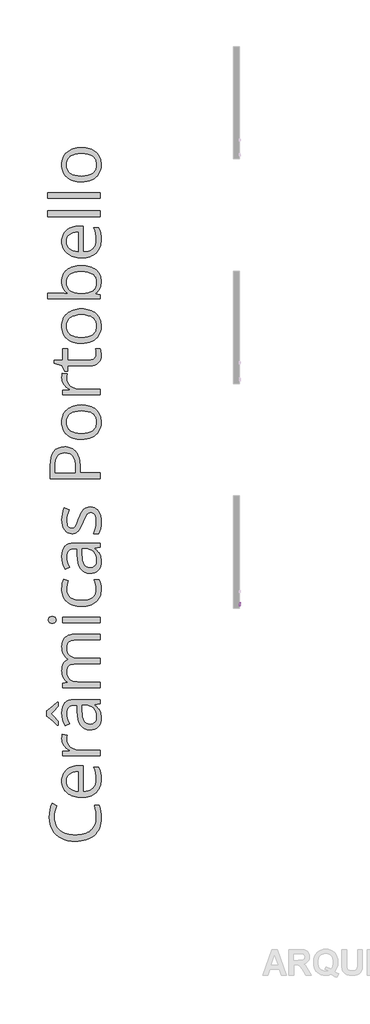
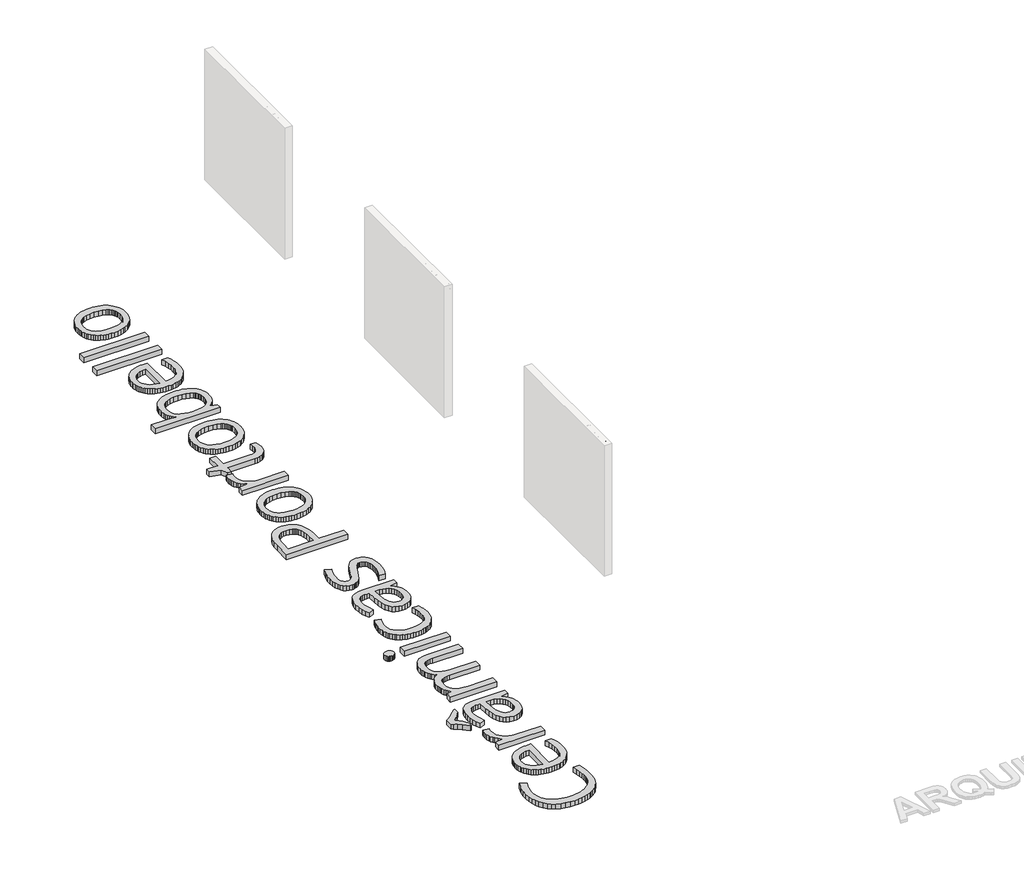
# One storey, part 2 of 8: 2 proxies.
"""IFC4 building model written with IfcOpenShell, lengths in millimetres."""

from ifc_helpers import new_model, si_unit, frame, origin, origin_with_axes, place, context, project, spatial, polyline, outline, extrude, element, save

model = new_model("IFC4")

# Units and contexts
model_context = context("Model", 3, world=origin())
ifc_project = project(units=[si_unit("LENGTHUNIT", "METRE", prefix="MILLI")], contexts=[model_context])

# Site, building, storey
site = spatial("IfcSite", under=ifc_project)
building = spatial("IfcBuilding", under=site)
storey = spatial("IfcBuildingStorey", under=building, Name="PORTOBELLO - SHOWROOM", Elevation=0.0)

# Proxies
placement = place(None, origin())
element("IfcBuildingElementProxy", 1, Name="10mm Arial", ObjectType="10mm Arial", at=placement, inside=storey, context=model_context, shape_type="SweptSolid", body=[
    extrude(outline(polyline([(-3776.6101833, 2548.8308244), (-3736.5110458, 2649.2871345), (-3725.8179425, 2649.2871345), (-3685.718805, 2548.8308244), (-3698.9870823, 2548.8308244), (-3710.489526, 2580.2234213), (-3751.8639877, 2580.2234213), (-3763.341906, 2548.8308244), (-3776.6101833, 2548.8308244)]), holes=[polyline([(-3747.2532, 2592.7804601), (-3715.0757882, 2592.7804601), (-3724.1256853, 2617.4776047), (-3731.1644941, 2636.7300958), (-3737.418488, 2619.6358457), (-3747.2532, 2592.7804601)])]), frame((-19232.9960483, 0.0, 0.0), z_axis=(1.0, 0.0, 0.0), x_axis=(0.0, 1.0, 0.0)), (0.0, 0.0, 1.0), 20.0),
    extrude(outline(polyline([(-3673.8730047, 2548.8308244), (-3673.8730047, 2622.6034272), (-3661.315966, 2622.6034272), (-3661.315966, 2612.3027313), (-3651.7142459, 2621.2054756), (-3638.6053841, 2624.173057), (-3626.7473212, 2621.781824), (-3618.6539173, 2615.5033046), (-3614.8892582, 2606.2694666), (-3614.2270706, 2594.1293607), (-3614.2270706, 2548.8308244), (-3626.7841094, 2548.8308244), (-3626.7841094, 2592.4371035), (-3628.2311119, 2603.5471398), (-3633.3446716, 2609.420989), (-3641.965373, 2611.6160182), (-3655.5892696, 2606.6863995), (-3659.8842919, 2599.5433574), (-3661.315966, 2587.9734687), (-3661.315966, 2548.8308244), (-3673.8730047, 2548.8308244)])), frame((-19232.9960483, 0.0, 0.0), z_axis=(1.0, 0.0, 0.0), x_axis=(0.0, 1.0, 0.0)), (0.0, 0.0, 1.0), 20.0),
    extrude(outline(polyline([(-19212.9960483, -3584.4041035), (-19212.9960483, -3596.9611423), (-19232.9960483, -3596.9611423), (-19232.9960483, -3584.4041035), (-19212.9960483, -3584.4041035)])), frame((0.0, 0.0, 2548.8308244), z_axis=(0.0, 0.0, 1.0), x_axis=(1.0, 0.0, 0.0)), (0.0, 0.0, 1.0), 73.7726028),
    extrude(outline(polyline([(-19212.9960483, -3584.4041035), (-19212.9960483, -3596.9611423), (-19232.9960483, -3596.9611423), (-19232.9960483, -3584.4041035), (-19212.9960483, -3584.4041035)])), frame((0.0, 0.0, 2636.7300958), z_axis=(0.0, 0.0, 1.0), x_axis=(1.0, 0.0, 0.0)), (0.0, 0.0, 1.0), 12.5570388),
    extrude(outline(polyline([(-3570.2774349, 2570.8056422), (-3557.7203961, 2572.3752721), (-3551.9078606, 2563.0555949), (-3538.5905324, 2559.8182333), (-3525.7882389, 2562.7858147), (-3521.6189097, 2569.7510472), (-3525.8127644, 2575.3919044), (-3538.7376852, 2578.9726225), (-3557.6468197, 2585.1162518), (-3565.8996392, 2592.2899507), (-3568.707805, 2602.4189683), (-3566.4514621, 2611.7754338), (-3560.2955701, 2618.9246072), (-3552.3125308, 2622.6402154), (-3541.5090629, 2624.173057), (-3526.2296973, 2621.7082476), (-3516.5176127, 2615.0373208), (-3512.2011306, 2603.767869), (-3524.7581694, 2602.1982392), (-3529.4793216, 2609.1266834), (-3540.5280442, 2611.6160182), (-3552.5455227, 2609.237048), (-3556.1507663, 2603.6942926), (-3554.6547128, 2600.0399981), (-3549.9703488, 2597.2686204), (-3539.1546181, 2594.5953446), (-3520.7237301, 2588.6847072), (-3512.1643424, 2581.9892549), (-3509.0618709, 2571.0754224), (-3512.7039026, 2559.0579439), (-3523.213065, 2550.3391406), (-3538.7622106, 2547.2611945), (-3551.4234826, 2548.7449853), (-3560.6634521, 2553.1963574), (-3566.8316069, 2560.56626), (-3570.2774349, 2570.8056422)])), frame((-19232.9960483, 0.0, 0.0), z_axis=(1.0, 0.0, 0.0), x_axis=(0.0, 1.0, 0.0)), (0.0, 0.0, 1.0), 20.0),
])
element("IfcBuildingElementProxy", 2, Name="1200mm OpenSans", ObjectType="1200mm OpenSans", at=placement, inside=storey, context=model_context, shape_type="SweptSolid", body=[
    extrude(outline(polyline([(-23693.0120299, -8848.8199768), (-23690.8909826, -8897.0040871), (-23684.5278407, -8942.5854781), (-23673.9226042, -8985.5641496), (-23659.0752731, -9025.9401018), (-23639.9858474, -9063.7133345), (-23616.6543272, -9098.8838479), (-23589.0807123, -9131.4516419), (-23557.2650028, -9161.4167165), (-23521.7592907, -9188.2889492), (-23483.115668, -9211.5782175), (-23441.3341347, -9231.2845215), (-23396.4146908, -9247.4078611), (-23348.3573363, -9259.9482364), (-23297.1620712, -9268.9056473), (-23242.8288954, -9274.2800938), (-23185.3578091, -9276.071576), (-23126.4163553, -9274.3448801), (-23070.917026, -9269.1647925), (-23018.8598214, -9260.5313131), (-22970.2447412, -9248.444442), (-22925.0717857, -9232.9041791), (-22883.3409547, -9213.9105245), (-22845.0522483, -9191.4634781), (-22810.2056665, -9165.56304), (-22779.1504919, -9136.4683553), (-22752.2360073, -9104.4385694), (-22729.4622126, -9069.4736821), (-22710.8291078, -9031.5736935), (-22696.336693, -8990.7386036), (-22685.9849681, -8946.9684125), (-22679.7739332, -8900.26312), (-22677.7035882, -8850.6227262), (-22680.5203841, -8785.5209398), (-22688.9707718, -8716.0474861), (-22703.0547512, -8642.2023653), (-22722.7723223, -8563.9855773), (-22605.9541636, -8563.9855773), (-22586.8675547, -8630.0112728), (-22573.2342626, -8703.3381031), (-22565.0542874, -8783.9660684), (-22562.327629, -8871.8951686), (-22564.8655621, -8936.3434584), (-22572.4793613, -8997.0059745), (-22585.1690268, -9053.8827169), (-22602.9345584, -9106.9736857), (-22625.7759562, -9156.2788808), (-22653.6932202, -9201.7983022), (-22686.6863503, -9243.53195), (-22724.7553466, -9281.4798241), (-22767.5002241, -9315.2813747), (-22814.5209978, -9344.5760518), (-22865.8176676, -9369.3638556), (-22921.3902335, -9389.6447859), (-22981.2386956, -9405.4188428), (-23045.3630538, -9416.6860264), (-23113.7633082, -9423.4463365), (-23186.4394587, -9425.6997732), (-23277.2754923, -9421.3619075), (-23362.2976591, -9408.3483106), (-23441.5059593, -9386.6589823), (-23514.9003928, -9356.2939227), (-23581.342974, -9317.7376207), (-23639.6957175, -9271.4745651), (-23689.9586232, -9217.504756), (-23732.1316911, -9155.8281934), (-23765.4938215, -9087.4025879), (-23789.3239147, -9013.18565), (-23803.6219705, -8933.1773798), (-23808.3879892, -8847.3777773), (-23804.3994062, -8755.8882471), (-23792.4336573, -8670.3477898), (-23772.4907425, -8590.7564054), (-23744.5706617, -8517.1140939), (-23628.8341525, -8576.244273), (-23656.9119739, -8644.3881989), (-23676.9675606, -8712.5321249), (-23689.0009126, -8780.6760508), (-23693.0120299, -8848.8199768)])), origin_with_axes(), (0.0, 0.0, 1.0), 100.0),
    extrude(outline(polyline([(-22562.327629, -7940.9553972), (-22564.2543173, -7989.5789277), (-22570.0343825, -8035.5772044), (-22579.6678244, -8078.9502274), (-22593.1546431, -8119.6979966), (-22610.4948385, -8157.8205121), (-22631.6884107, -8193.3177738), (-22656.7353597, -8226.1897817), (-22685.6356854, -8256.4365359), (-22717.9556014, -8283.5622802), (-22753.261321, -8307.0712586), (-22791.5528442, -8326.9634711), (-22832.830171, -8343.2389177), (-22877.0933015, -8355.8975984), (-22924.3422356, -8364.9395132), (-22974.5769733, -8370.3646621), (-23027.7975147, -8372.173045), (-23081.5447969, -8370.4942347), (-23132.4583824, -8365.4578036), (-23180.5382713, -8357.0637519), (-23225.7844636, -8345.3120795), (-23268.1969591, -8330.2027864), (-23307.7757581, -8311.7358726), (-23344.5208603, -8289.9113381), (-23378.4322659, -8264.7291829), (-23408.8959134, -8236.7189647), (-23435.2977412, -8206.410241), (-23457.6377493, -8173.8030119), (-23475.9159378, -8138.8972774), (-23490.1323066, -8101.6930374), (-23500.2868557, -8062.1902919), (-23506.3795852, -8020.3890411), (-23508.4104951, -7976.2892847), (-23506.6133793, -7934.9443548), (-23501.222032, -7895.81906), (-23492.2364531, -7858.9134004), (-23479.6566427, -7824.2273759), (-23463.4826008, -7791.7609866), (-23443.7143273, -7761.5142324), (-23420.3518222, -7733.4871134), (-23393.3950856, -7707.6796295), (-23363.4919806, -7684.5255674), (-23331.2903701, -7664.4587136), (-23296.7902541, -7647.479068), (-23259.9916327, -7633.5866307), (-23220.8945059, -7622.7814017), (-23179.4988736, -7615.063381), (-23135.8047359, -7610.4325686), (-23089.8120928, -7608.8889644), (-23000.7562742, -7608.8889644), (-23000.7562742, -8230.476945), (-22926.212588, -8223.9757801), (-22861.2234735, -8208.4383341), (-22805.7889305, -8183.8646068), (-22781.6546234, -8168.1891377), (-22759.9089592, -8150.2545983), (-22740.6420754, -8130.2243628), (-22723.9441094, -8108.2618054), (-22698.254931, -8058.5397245), (-22682.8414239, -8001.0883557), (-22677.7035882, -7935.907699), (-22681.5118963, -7863.279434), (-22692.9368204, -7791.0567876), (-22711.9783605, -7719.2397598), (-22738.6365167, -7647.8283507), (-22618.933959, -7647.8283507), (-22592.9292994, -7718.3158508), (-22575.4876993, -7784.8373023), (-22565.6176466, -7856.1360396), (-22562.327629, -7940.9553972)]), holes=[polyline([(-23393.0345358, -7977.7314842), (-23388.4375249, -8029.2563145), (-23374.6464923, -8075.3052935), (-23351.6614379, -8115.8784214), (-23319.4823617, -8150.9756981), (-23279.1909135, -8180.01123), (-23231.8687427, -8202.3991237), (-23177.5158493, -8218.1393791), (-23116.1322335, -8227.2319962), (-23116.1322335, -7755.2722127), (-23179.27353, -7758.8777115), (-23234.5728667, -7769.6942077), (-23282.0302437, -7787.7217013), (-23321.645661, -7812.9601924), (-23352.8782937, -7844.8913905), (-23375.1873171, -7882.9970052), (-23388.5727311, -7927.2770364), (-23393.0345358, -7977.7314842)])]), origin_with_axes(), (0.0, 0.0, 1.0), 100.0),
    extrude(outline(polyline([(-23508.4104951, -6961.7019428), (-23506.1570583, -6904.1942381), (-23499.3967482, -6852.8158813), (-23380.7758401, -6871.9250245), (-23389.9698619, -6925.1061308), (-23393.0345358, -6971.4367894), (-23387.3896768, -7024.764369), (-23370.4551, -7074.0582969), (-23342.2308053, -7119.3185731), (-23302.7167926, -7160.5451977), (-23254.7749268, -7194.8537715), (-23201.2670722, -7219.3598956), (-23142.193229, -7234.0635701), (-23077.5533971, -7238.964795), (-22585.4028208, -7238.964795), (-22585.4028208, -7375.2526469), (-23485.3353032, -7375.2526469), (-23485.3353032, -7262.7610866), (-23323.8089602, -7247.2574421), (-23323.8089602, -7240.7675443), (-23365.6102111, -7214.0643194), (-23402.318695, -7184.7921766), (-23433.934412, -7152.951116), (-23460.457362, -7118.5411375), (-23481.4368577, -7081.9678598), (-23496.4222118, -7043.6369014), (-23505.4134242, -7003.5482624), (-23508.4104951, -6961.7019428)])), origin_with_axes(), (0.0, 0.0, 1.0), 100.0),
    extrude(outline(polyline([(-22585.4028208, -6122.3418391), (-22717.0035244, -6149.7436294), (-22717.0035244, -6156.594077), (-22675.4050828, -6190.6322384), (-22641.1077762, -6224.6027967), (-22614.1116044, -6258.505752), (-22594.4165676, -6292.3411041), (-22580.377657, -6328.249618), (-22570.3498636, -6368.3720585), (-22564.3331876, -6412.7084257), (-22562.327629, -6461.2587195), (-22566.8007008, -6525.3689937), (-22580.2199164, -6582.1330643), (-22602.5852757, -6631.5509312), (-22633.8967787, -6673.6225945), (-22673.4558601, -6707.2213358), (-22720.5639544, -6731.2204367), (-22775.2210616, -6745.6198972), (-22837.4271819, -6750.4197174), (-22903.9768014, -6743.5129339), (-22962.1098347, -6722.7925834), (-23011.826282, -6688.2586659), (-23053.1261432, -6639.9111814), (-23086.0094184, -6577.7501299), (-23110.4761074, -6501.7755114), (-23126.5262103, -6411.9873259), (-23134.1597271, -6308.3855734), (-23139.2074254, -6153.709678), (-23193.2899063, -6153.709678), (-23240.9838941, -6156.594077), (-23282.0302437, -6165.2472739), (-23316.428955, -6179.6692689), (-23344.180028, -6199.8600617), (-23365.5538752, -6226.4055461), (-23380.8209088, -6259.8916155), (-23389.981129, -6300.31827), (-23393.0345358, -6347.6855096), (-23388.7079373, -6406.6804825), (-23375.7281419, -6469.3710916), (-23354.0951495, -6535.7573369), (-23323.8089602, -6605.8392184), (-23429.089523, -6648.3841034), (-23462.2150426, -6577.8064658), (-23487.3183275, -6500.9192055), (-23503.1374532, -6420.6968588), (-23508.4104951, -6340.1139622), (-23503.9036216, -6263.9140001), (-23490.3830014, -6198.282656), (-23467.8486344, -6143.2199302), (-23453.2012958, -6119.651799), (-23436.3005205, -6098.7258224), (-23416.9153313, -6080.3462293), (-23394.8147508, -6064.4172486), (-23369.9987791, -6050.9388803), (-23342.4674161, -6039.9111244), (-23279.2585166, -6025.2074499), (-23205.1880521, -6020.3062251), (-22585.4028208, -6020.3062251), (-22585.4028208, -6122.3418391)]), holes=[polyline([(-22677.7035882, -6434.217479), (-22682.0639883, -6372.9690694), (-22695.1451883, -6318.6612448), (-22716.9471885, -6271.2940053), (-22747.4699886, -6230.8673508), (-22785.8347485, -6198.5305341), (-22831.1626278, -6175.4328078), (-22883.4536266, -6161.5741721), (-22942.7077447, -6156.9546269), (-23023.8314661, -6156.9546269), (-23018.0626681, -6295.7663279), (-23012.7445575, -6372.5859851), (-23002.5590236, -6437.9131152), (-22987.5060664, -6491.7477181), (-22967.5856859, -6534.0897938), (-22942.1443855, -6566.1111293), (-22910.5286686, -6588.9835119), (-22872.738535, -6602.7069414), (-22828.7739849, -6607.2814179), (-22794.0259909, -6604.4308205), (-22763.6947329, -6595.8790282), (-22737.7802108, -6581.626041), (-22716.2824246, -6561.671859), (-22699.4041837, -6536.6023757), (-22687.3482973, -6507.0034846), (-22680.1147655, -6472.8751857), (-22677.7035882, -6434.217479)])]), origin_with_axes(), (0.0, 0.0, 1.0), 100.0),
    extrude(outline(polyline([(-23620.1809556, -6632.1593591), (-23719.6927205, -6543.8246403), (-23788.918296, -6486.4972106), (-23838.1333537, -6450.4422233), (-23877.6135647, -6425.9248319), (-23877.6135647, -6289.9975299), (-23837.0517041, -6265.3449324), (-23786.0338971, -6227.442127), (-23716.4477716, -6168.4471541), (-23620.1809556, -6080.5180538), (-23600.7112625, -6080.5180538), (-23600.7112625, -6177.8665195), (-23628.4285339, -6216.2200122), (-23664.348315, -6259.1705158), (-23760.795406, -6358.8625556), (-23663.0863905, -6459.3658326), (-23627.4820905, -6501.4374959), (-23600.7112625, -6538.0558424), (-23600.7112625, -6632.1593591), (-23620.1809556, -6632.1593591)])), origin_with_axes(), (0.0, 0.0, 1.0), 100.0),
    extrude(outline(polyline([(-22585.4028208, -4586.7599311), (-23175.9835124, -4586.7599311), (-23226.854846, -4589.64433), (-23270.9433351, -4598.297527), (-23308.2489798, -4612.7195219), (-23338.7717799, -4632.9103148), (-23362.5117356, -4659.1853868), (-23379.4688468, -4691.860219), (-23389.6431135, -4730.9348114), (-23393.0345358, -4776.4091641), (-23388.4262577, -4836.0576337), (-23374.6014235, -4887.3683875), (-23351.5600332, -4930.3414254), (-23319.3020868, -4964.9767476), (-23277.4670344, -4991.6349038), (-23225.6943261, -5010.6764439), (-23163.9839619, -5022.101368), (-23092.3359419, -5025.9096761), (-22585.4028208, -5025.9096761), (-22585.4028208, -5162.5580778), (-23175.9835124, -5162.5580778), (-23226.854846, -5165.4424768), (-23270.9433351, -5174.0956738), (-23308.2489798, -5188.5176687), (-23338.7717799, -5208.7084615), (-23362.5117356, -5235.0286023), (-23379.4688468, -5267.8386407), (-23389.6431135, -5307.1385768), (-23393.0345358, -5352.9284106), (-23388.1896469, -5412.9824988), (-23373.6549801, -5464.4284588), (-23349.4305355, -5507.2662905), (-23333.6846466, -5525.4571583), (-23315.5163131, -5541.4959941), (-23270.5827852, -5567.6809286), (-23213.3004242, -5586.3844532), (-23143.66923, -5597.606568), (-23061.6892027, -5601.347273), (-22585.4028208, -5601.347273), (-22585.4028208, -5737.6351249), (-23485.3353032, -5737.6351249), (-23485.3353032, -5626.5857641), (-23369.9593439, -5604.5922218), (-23369.9593439, -5598.1023241), (-23400.7976252, -5576.6608739), (-23428.0529422, -5551.2759094), (-23451.7252947, -5521.9474307), (-23471.814683, -5488.6754377), (-23487.8253508, -5452.3838396), (-23499.261542, -5413.9965453), (-23506.1232568, -5373.5135549), (-23508.4104951, -5330.9348684), (-23506.0443865, -5280.3114128), (-23498.9460609, -5234.2624338), (-23487.1155182, -5192.7879312), (-23470.5527584, -5155.8879052), (-23449.2577816, -5123.5623557), (-23423.2305876, -5095.8112826), (-23392.4711766, -5072.6346861), (-23356.9795485, -5054.0325661), (-23356.9795485, -5047.5426684), (-23390.1276024, -5025.0871717), (-23419.6250889, -4998.1022671), (-23445.4720079, -4966.5879548), (-23467.6683594, -4930.5442347), (-23485.4930438, -4890.8950159), (-23498.2249611, -4848.5642074), (-23505.8641116, -4803.5518092), (-23508.4104951, -4755.8578214), (-23503.4754687, -4684.0520608), (-23488.6703895, -4621.8684749), (-23477.5665802, -4594.3849975), (-23463.9952576, -4569.3070638), (-23447.9564219, -4546.6346737), (-23429.4500729, -4526.3678274), (-23408.2283328, -4508.4952575), (-23384.0433233, -4493.005697), (-23356.8950446, -4479.8991457), (-23326.7834967, -4469.1756038), (-23257.6705929, -4454.8775479), (-23176.7046121, -4450.1115293), (-22585.4028208, -4450.1115293), (-22585.4028208, -4586.7599311)])), origin_with_axes(), (0.0, 0.0, 1.0), 100.0),
    extrude(outline(polyline([(-22585.4028208, -4036.2002754), (-22585.4028208, -4172.4881273), (-23485.3353032, -4172.4881273), (-23485.3353032, -4036.2002754), (-22585.4028208, -4036.2002754)])), origin_with_axes(), (0.0, 0.0, 1.0), 100.0),
    extrude(outline(polyline([(-23739.5229635, -4184.0257232), (-23761.7305822, -4182.5835237), (-23780.7608552, -4178.2569252), (-23796.6137824, -4171.0459278), (-23809.2893639, -4160.9505314), (-23825.9197267, -4134.9909405), (-23831.463181, -4103.2625517), (-23825.8295893, -4072.70595), (-23808.928814, -4046.6562217), (-23796.1405607, -4036.2453441), (-23780.3101678, -4028.809003), (-23761.4376354, -4024.3471983), (-23739.5229635, -4022.8599301), (-23717.5857572, -4024.3471983), (-23698.6456217, -4028.809003), (-23682.702557, -4036.2453441), (-23669.7565631, -4046.6562217), (-23652.5853754, -4072.70595), (-23646.8616462, -4103.2625517), (-23652.5853754, -4134.9909405), (-23659.740037, -4148.6918357), (-23669.7565631, -4160.9505314), (-23682.702557, -4171.0459278), (-23698.6456217, -4178.2569252), (-23717.5857572, -4182.5835237), (-23739.5229635, -4184.0257232)])), origin_with_axes(), (0.0, 0.0, 1.0), 100.0),
    extrude(outline(polyline([(-22562.327629, -3366.2986118), (-22564.2345998, -3414.2123098), (-22569.9555122, -3459.3430134), (-22579.4903663, -3501.6907226), (-22592.8391619, -3541.2554376), (-22610.0018993, -3578.0371582), (-22630.9785782, -3612.0358845), (-22655.7691987, -3643.2516164), (-22684.3737609, -3671.684354), (-22716.4655164, -3697.035517), (-22751.7177168, -3719.0065248), (-22790.1303622, -3737.5973776), (-22831.7034526, -3752.8080754), (-22876.436988, -3764.6386181), (-22924.3309684, -3773.0890057), (-22975.3853937, -3778.1592383), (-23029.600264, -3779.8493159), (-23085.2122651, -3778.1338872), (-23137.5736837, -3772.9876011), (-23186.6845199, -3764.4104576), (-23232.5447737, -3752.4024568), (-23275.154445, -3736.9635986), (-23314.5135338, -3718.093883), (-23350.6220402, -3695.79331), (-23383.4799641, -3670.0618796), (-23412.7605573, -3641.1587371), (-23438.1370714, -3609.3430276), (-23459.6095064, -3574.6147512), (-23477.1778623, -3536.9739078), (-23490.8421391, -3496.4204975), (-23500.6023369, -3452.9545203), (-23506.4584555, -3406.5759761), (-23508.4104951, -3357.284865), (-23505.0754087, -3291.7098569), (-23495.0701498, -3226.2249863), (-23480.5580174, -3167.8609756), (-23463.7023108, -3123.6485475), (-23350.8502007, -3165.8328826), (-23367.3904261, -3213.6508094), (-23380.956115, -3265.5249224), (-23390.0149306, -3316.3173857), (-23393.0345358, -3360.8903637), (-23387.3953104, -3425.8738447), (-23370.4776344, -3482.1928615), (-23342.2815076, -3529.8474143), (-23302.8069301, -3568.8375028), (-23252.0539019, -3599.1631273), (-23190.022423, -3620.8242876), (-23116.7124935, -3633.8209838), (-23032.1241132, -3638.1532159), (-22951.4736135, -3633.928022), (-22880.7833041, -3621.2524406), (-22820.0531849, -3600.1264715), (-22769.2832559, -3570.5501147), (-22747.8192713, -3552.6324761), (-22729.2171513, -3532.6811109), (-22713.4768959, -3510.6960191), (-22700.5985052, -3486.6772006), (-22690.581979, -3460.6246555), (-22683.4273175, -3432.5383838), (-22677.7035882, -3370.2646604), (-22680.7457278, -3312.959765), (-22689.8721465, -3254.9788386), (-22705.0828442, -3196.3218812), (-22726.3778211, -3136.9888928), (-22607.7569129, -3136.9888928), (-22587.8816012, -3185.5279194), (-22573.68495, -3239.9258814), (-22565.1669592, -3300.1827789), (-22562.327629, -3366.2986118)])), origin_with_axes(), (0.0, 0.0, 1.0), 100.0),
    extrude(outline(polyline([(-22585.4028208, -2361.0855666), (-22717.0035244, -2388.4873569), (-22717.0035244, -2395.3378045), (-22675.4050828, -2429.3759659), (-22641.1077762, -2463.3465243), (-22614.1116044, -2497.2494795), (-22594.4165676, -2531.0848316), (-22580.377657, -2566.9933455), (-22570.3498636, -2607.115786), (-22564.3331876, -2651.4521532), (-22562.327629, -2700.002447), (-22566.8007008, -2764.1127212), (-22580.2199164, -2820.8767918), (-22602.5852757, -2870.2946588), (-22633.8967787, -2912.366322), (-22673.4558601, -2945.9650633), (-22720.5639544, -2969.9641642), (-22775.2210616, -2984.3636247), (-22837.4271819, -2989.1634449), (-22903.9768014, -2982.2566614), (-22962.1098347, -2961.5363109), (-23011.826282, -2927.0023934), (-23053.1261432, -2878.6549089), (-23086.0094184, -2816.4938574), (-23110.4761074, -2740.5192389), (-23126.5262103, -2650.7310534), (-23134.1597271, -2547.1293009), (-23139.2074254, -2392.4534055), (-23193.2899063, -2392.4534055), (-23240.9838941, -2395.3378045), (-23282.0302437, -2403.9910015), (-23316.428955, -2418.4129964), (-23344.180028, -2438.6037892), (-23365.5538752, -2465.1492736), (-23380.8209088, -2498.6353431), (-23389.981129, -2539.0619975), (-23393.0345358, -2586.4292371), (-23388.7079373, -2645.42421), (-23375.7281419, -2708.1148191), (-23354.0951495, -2774.5010644), (-23323.8089602, -2844.582946), (-23429.089523, -2887.1278309), (-23462.2150426, -2816.5501934), (-23487.3183275, -2739.662933), (-23503.1374532, -2659.4405863), (-23508.4104951, -2578.8576897), (-23503.9036216, -2502.6577276), (-23490.3830014, -2437.0263836), (-23467.8486344, -2381.9636577), (-23453.2012958, -2358.3955265), (-23436.3005205, -2337.4695499), (-23416.9153313, -2319.0899568), (-23394.8147508, -2303.1609761), (-23369.9987791, -2289.6826078), (-23342.4674161, -2278.6548519), (-23279.2585166, -2263.9511775), (-23205.1880521, -2259.0499526), (-22585.4028208, -2259.0499526), (-22585.4028208, -2361.0855666)]), holes=[polyline([(-22677.7035882, -2672.9612065), (-22682.0639883, -2611.7127969), (-22695.1451883, -2557.4049723), (-22716.9471885, -2510.0377328), (-22747.4699886, -2469.6110783), (-22785.8347485, -2437.2742616), (-22831.1626278, -2414.1765354), (-22883.4536266, -2400.3178996), (-22942.7077447, -2395.6983544), (-23023.8314661, -2395.6983544), (-23018.0626681, -2534.5100554), (-23012.7445575, -2611.3297127), (-23002.5590236, -2676.6568427), (-22987.5060664, -2730.4914456), (-22967.5856859, -2772.8335213), (-22942.1443855, -2804.8548569), (-22910.5286686, -2827.7272394), (-22872.738535, -2841.4506689), (-22828.7739849, -2846.0251454), (-22794.0259909, -2843.174548), (-22763.6947329, -2834.6227557), (-22737.7802108, -2820.3697686), (-22716.2824246, -2800.4155865), (-22699.4041837, -2775.3461032), (-22687.3482973, -2745.7472121), (-22680.1147655, -2711.6189132), (-22677.7035882, -2672.9612065)])]), origin_with_axes(), (0.0, 0.0, 1.0), 100.0),
    extrude(outline(polyline([(-22828.0528852, -1391.5669588), (-22767.8973923, -1397.4596958), (-22740.5660219, -1404.825617), (-22715.0655688, -1415.1379067), (-22691.396033, -1428.3965649), (-22669.5574146, -1444.6015916), (-22649.5497134, -1463.7529868), (-22631.3729296, -1485.8507505), (-22601.1656106, -1537.7361306), (-22579.5889541, -1599.1084793), (-22566.6429603, -1669.9677965), (-22562.327629, -1750.3140822), (-22565.888059, -1835.336249), (-22576.5693489, -1910.4883631), (-22594.3714989, -1975.7704245), (-22619.2945089, -2031.182433), (-22746.9291638, -2031.182433), (-22718.2203802, -1963.4891944), (-22696.2719067, -1890.9285325), (-22682.3456679, -1817.3763585), (-22677.7035882, -1746.7085834), (-22679.8443531, -1695.9273873), (-22686.2666477, -1651.3882108), (-22696.9704721, -1613.091054), (-22711.9558262, -1581.0359169), (-22731.3353818, -1555.7185555), (-22755.2218109, -1537.634726), (-22783.6151134, -1526.7844283), (-22816.5152893, -1523.1676623), (-22842.2270021, -1526.0407941), (-22866.0007593, -1534.6601895), (-22887.836561, -1549.0258485), (-22907.7344071, -1569.1377711), (-22927.5195813, -1597.5648751), (-22949.0173675, -1636.8760785), (-22997.1507755, -1748.1507829), (-23041.6786848, -1856.4058822), (-23080.0772462, -1928.0651694), (-23117.7997767, -1974.6211718), (-23138.4525241, -1992.7951388), (-23160.2995929, -2007.5664164), (-23183.8592737, -2019.0026077), (-23209.6498567, -2027.1713157), (-23237.6713422, -2032.0725405), (-23267.9237299, -2033.7062822), (-23320.6992176, -2028.0726904), (-23367.6157697, -2011.1719151), (-23408.6733865, -1983.0039563), (-23443.8720678, -1943.568814), (-23472.1076297, -1894.3086876), (-23492.2758882, -1836.6657767), (-23504.3768433, -1770.6400813), (-23508.4104951, -1696.2316013), (-23504.6697901, -1623.6033363), (-23493.4476753, -1551.7412398), (-23474.7441507, -1480.6453117), (-23448.5592162, -1410.3155522), (-23337.1493055, -1459.3503349), (-23361.5990937, -1526.0520613), (-23379.0632282, -1589.5088389), (-23389.5417089, -1649.7206677), (-23393.0345358, -1706.6875476), (-23391.1078474, -1752.5449845), (-23385.3277822, -1792.4082798), (-23375.6943403, -1826.2774335), (-23362.2075217, -1854.1524455), (-23345.3180136, -1875.9206441), (-23325.4765034, -1891.4693574), (-23302.6829911, -1900.7985853), (-23276.9374767, -1903.908328), (-23242.9105825, -1899.2662484), (-23214.3820738, -1885.3400095), (-23189.2337202, -1861.0479618), (-23165.3472911, -1825.3084557), (-23136.8187825, -1764.8262146), (-23097.74419, -1666.3059618), (-23068.1340317, -1592.2467645), (-23038.4337359, -1531.2349657), (-23008.6433027, -1483.2705655), (-22978.762732, -1448.3535638), (-22946.899137, -1423.5094241), (-22911.1596308, -1405.76361), (-22871.5442136, -1395.1161216), (-22828.0528852, -1391.5669588)])), origin_with_axes(), (0.0, 0.0, 1.0), 100.0),
    extrude(outline(polyline([(-23441.7087686, 53.5169312), (-23398.2878601, 51.5677084), (-23357.441503, 45.7200402), (-23319.1696974, 35.9739264), (-23283.4724432, 22.3293672), (-23250.3497404, 4.7863624), (-23219.8015891, -16.6550878), (-23191.8279892, -41.9949836), (-23166.4289408, -71.2333248), (-23143.8241538, -104.1053327), (-23124.2333385, -140.3462285), (-23107.6564947, -179.9560122), (-23094.0936225, -222.9346838), (-23083.544722, -269.2822432), (-23076.009793, -318.9986905), (-23071.4888356, -372.0840256), (-23069.9818498, -428.5382487), (-23069.9818498, -570.2343487), (-22585.4028208, -570.2343487), (-22585.4028208, -709.7671494), (-23785.3127973, -709.7671494), (-23785.3127973, -397.5309596), (-23779.9439844, -291.8166102), (-23763.8375455, -200.1975074), (-23736.9934808, -122.6736512), (-23699.4117901, -59.2450415), (-23651.0924736, -9.9116785), (-23592.0355312, 25.326438), (-23522.2409628, 46.4693079), (-23441.7087686, 53.5169312)]), holes=[polyline([(-23185.3578091, -570.2343487), (-23185.3578091, -444.0418932), (-23189.0759796, -357.2845801), (-23200.2304913, -283.4169249), (-23218.8213441, -222.4389277), (-23244.8485381, -174.3505884), (-23260.8479387, -154.830193), (-23279.100776, -137.9125169), (-23299.60705, -123.5975602), (-23322.3667607, -111.885323), (-23374.6464923, -96.2690066), (-23435.9399706, -91.0635678), (-23491.2956433, -95.9647926), (-23539.102303, -110.6684671), (-23579.3599497, -135.1745913), (-23612.0685835, -169.4831651), (-23637.3859448, -214.1350134), (-23655.4697744, -269.670961), (-23666.3200721, -336.0910079), (-23669.936838, -413.395154), (-23669.936838, -570.2343487), (-23185.3578091, -570.2343487)])]), origin_with_axes(), (0.0, 0.0, 1.0), 100.0),
    extrude(outline(polyline([(-23036.0901618, 1060.8932756), (-22981.8245891, 1059.1609462), (-22930.6180568, 1053.9639578), (-22882.4705648, 1045.3023104), (-22837.3821131, 1033.1760042), (-22795.3527018, 1017.585039), (-22756.3823308, 998.5294148), (-22720.4710001, 976.0091318), (-22687.6187097, 950.0241898), (-22658.2536127, 920.9914746), (-22632.8038619, 889.3278721), (-22611.2694574, 855.0333823), (-22593.6503992, 818.1080051), (-22579.9466872, 778.5517405), (-22570.1583215, 736.3645886), (-22564.2853021, 691.5465493), (-22562.327629, 644.0976227), (-22565.9218605, 585.4068638), (-22576.7045551, 530.1187942), (-22594.6757129, 478.2334141), (-22619.8353337, 429.7507234), (-22651.7101959, 385.6396999), (-22689.8270777, 346.8693214), (-22734.1859792, 313.4395879), (-22784.7869005, 285.3504993), (-22840.7848026, 263.1090791), (-22901.3346468, 247.2223503), (-22966.4364332, 237.690313), (-23036.0901618, 234.5129673), (-23090.3444672, 236.2312128), (-23141.517198, 241.3859492), (-23189.6083541, 249.9771767), (-23234.6179354, 262.0048951), (-23276.5459421, 277.4691045), (-23315.3923741, 296.3698048), (-23351.1572314, 318.7069962), (-23383.840514, 344.4806785), (-23413.0366033, 373.3077675), (-23438.3398807, 404.8051791), (-23459.7503462, 438.9729131), (-23477.2679998, 475.8109696), (-23490.8928415, 515.3193486), (-23500.6248712, 557.4980502), (-23506.4640891, 602.3470742), (-23508.4104951, 649.8664207), (-23506.4190204, 695.7999111), (-23500.4445963, 739.3165907), (-23490.4872229, 780.4164594), (-23476.5469, 819.0995172), (-23458.6236279, 855.3657642), (-23436.7174063, 889.2152003), (-23410.8282354, 920.6478255), (-23380.956115, 949.6636399), (-23347.6869389, 975.7330858), (-23311.6066004, 998.3266055), (-23272.7150997, 1017.4441992), (-23231.0124367, 1033.0858667), (-23186.4986114, 1045.2516081), (-23139.1736238, 1053.9414234), (-23089.0374739, 1059.1553126), (-23036.0901618, 1060.8932756)]), holes=[polyline([(-23037.1718114, 376.2090673), (-22954.6058905, 380.5131314), (-22882.495916, 393.4253237), (-22820.8418877, 414.9456442), (-22793.9358535, 428.9338526), (-22769.6438058, 445.074093), (-22748.0953173, 463.2987623), (-22729.4199606, 483.5402575), (-22713.6177357, 505.7985786), (-22700.6886426, 530.0737255), (-22690.6326813, 556.3656982), (-22683.4498518, 584.6744968), (-22677.7035882, 647.3425716), (-22683.4273175, 710.0331807), (-22690.581979, 738.3701473), (-22700.5985052, 764.7015552), (-22713.4768959, 789.0274044), (-22729.2171513, 811.3476949), (-22747.8192713, 831.6624268), (-22769.2832559, 849.9716001), (-22793.5020669, 866.1963443), (-22820.368666, 880.2577894), (-22882.0452286, 901.8907817), (-22954.3129437, 914.8705772), (-23037.1718114, 919.1971756), (-23119.1856402, 914.8705772), (-23190.7209884, 901.8907817), (-23251.7778559, 880.2577894), (-23278.3768594, 866.1963443), (-23302.3562428, 849.9716001), (-23323.6089677, 831.6342589), (-23342.027996, 811.2350231), (-23357.6133276, 788.7738928), (-23370.3649625, 764.2508678), (-23380.2829008, 737.6659483), (-23387.3671425, 709.0191342), (-23393.0345358, 645.5398222), (-23387.4460127, 582.9280834), (-23380.460359, 554.6897047), (-23370.6804437, 528.4963198), (-23358.1062669, 504.3479287), (-23342.7378285, 482.2445314), (-23324.5751287, 462.1861279), (-23303.6181673, 444.1727183), (-23279.8951124, 428.2437376), (-23253.4341319, 414.438621), (-23192.2983941, 393.19998), (-23120.2109539, 380.4567955), (-23037.1718114, 376.2090673)])]), origin_with_axes(), (0.0, 0.0, 1.0), 100.0),
    extrude(outline(polyline([(-23508.4104951, 1714.5701949), (-23506.1570583, 1772.0778996), (-23499.3967482, 1823.4562565), (-23380.7758401, 1804.3471132), (-23389.9698619, 1751.166007), (-23393.0345358, 1704.8353483), (-23387.3896768, 1651.5077687), (-23370.4551, 1602.2138408), (-23342.2308053, 1556.9535646), (-23302.7167926, 1515.7269401), (-23254.7749268, 1481.4183663), (-23201.2670722, 1456.9122421), (-23142.193229, 1442.2085676), (-23077.5533971, 1437.3073428), (-22585.4028208, 1437.3073428), (-22585.4028208, 1301.0194909), (-23485.3353032, 1301.0194909), (-23485.3353032, 1413.5110512), (-23323.8089602, 1429.0146957), (-23323.8089602, 1435.5045934), (-23365.6102111, 1462.2078184), (-23402.318695, 1491.4799611), (-23433.934412, 1523.3210218), (-23460.457362, 1557.7310003), (-23481.4368577, 1594.304278), (-23496.4222118, 1632.6352363), (-23505.4134242, 1672.7238753), (-23508.4104951, 1714.5701949)])), origin_with_axes(), (0.0, 0.0, 1.0), 100.0),
    extrude(outline(polyline([(-22677.7035882, 2287.1233928), (-22683.1118363, 2357.7911679), (-22694.2888824, 2411.8736488), (-22587.5661201, 2411.8736488), (-22577.6509986, 2384.2014461), (-22569.5386264, 2345.8930221), (-22564.1303783, 2304.5199242), (-22562.327629, 2267.6536997), (-22566.6091587, 2205.7968622), (-22579.4537479, 2152.187603), (-22600.8613966, 2106.8259221), (-22630.8321048, 2069.7118196), (-22669.3658724, 2040.8452954), (-22716.4626996, 2020.2263495), (-22772.1225862, 2007.854982), (-22836.3455323, 2003.7311929), (-23369.9593439, 2003.7311929), (-23369.9593439, 1873.2121389), (-23437.3821701, 1873.2121389), (-23495.7912495, 2003.0100931), (-23693.0120299, 2061.0586226), (-23693.0120299, 2140.3795946), (-23485.3353032, 2140.3795946), (-23485.3353032, 2405.3837511), (-23369.9593439, 2405.3837511), (-23369.9593439, 2140.3795946), (-22844.6381793, 2140.3795946), (-22806.6114349, 2142.8245734), (-22773.2943733, 2150.1595099), (-22744.6869943, 2162.384404), (-22720.789298, 2179.4992558), (-22701.9393, 2200.8956373), (-22688.4750157, 2225.9651207), (-22680.3964451, 2254.7077058), (-22677.7035882, 2287.1233928)])), origin_with_axes(), (0.0, 0.0, 1.0), 100.0),
    extrude(outline(polyline([(-23036.0901618, 3368.4124612), (-22981.8245891, 3366.6801317), (-22930.6180568, 3361.4831433), (-22882.4705648, 3352.821496), (-22837.3821131, 3340.6951897), (-22795.3527018, 3325.1042245), (-22756.3823308, 3306.0486004), (-22720.4710001, 3283.5283173), (-22687.6187097, 3257.5433753), (-22658.2536127, 3228.5106602), (-22632.8038619, 3196.8470577), (-22611.2694574, 3162.5525678), (-22593.6503992, 3125.6271906), (-22579.9466872, 3086.0709261), (-22570.1583215, 3043.8837742), (-22564.2853021, 2999.0657349), (-22562.327629, 2951.6168083), (-22565.9218605, 2892.9260493), (-22576.7045551, 2837.6379798), (-22594.6757129, 2785.7525997), (-22619.8353337, 2737.269909), (-22651.7101959, 2693.1588855), (-22689.8270777, 2654.388507), (-22734.1859792, 2620.9587734), (-22784.7869005, 2592.8696849), (-22840.7848026, 2570.6282646), (-22901.3346468, 2554.7415359), (-22966.4364332, 2545.2094986), (-23036.0901618, 2542.0321529), (-23090.3444672, 2543.7503983), (-23141.517198, 2548.9051348), (-23189.6083541, 2557.4963622), (-23234.6179354, 2569.5240807), (-23276.5459421, 2584.98829), (-23315.3923741, 2603.8889904), (-23351.1572314, 2626.2261817), (-23383.840514, 2651.999864), (-23413.0366033, 2680.8269531), (-23438.3398807, 2712.3243646), (-23459.7503462, 2746.4920987), (-23477.2679998, 2783.3301552), (-23490.8928415, 2822.8385342), (-23500.6248712, 2865.0172357), (-23506.4640891, 2909.8662598), (-23508.4104951, 2957.3856063), (-23506.4190204, 3003.3190967), (-23500.4445963, 3046.8357763), (-23490.4872229, 3087.935645), (-23476.5469, 3126.6187028), (-23458.6236279, 3162.8849497), (-23436.7174063, 3196.7343858), (-23410.8282354, 3228.1670111), (-23380.956115, 3257.1828255), (-23347.6869389, 3283.2522713), (-23311.6066004, 3305.8457911), (-23272.7150997, 3324.9633847), (-23231.0124367, 3340.6050523), (-23186.4986114, 3352.7707937), (-23139.1736238, 3361.460609), (-23089.0374739, 3366.6744981), (-23036.0901618, 3368.4124612)]), holes=[polyline([(-23037.1718114, 2683.7282528), (-22954.6058905, 2688.032317), (-22882.495916, 2700.9445093), (-22820.8418877, 2722.4648298), (-22793.9358535, 2736.4530381), (-22769.6438058, 2752.5932785), (-22748.0953173, 2770.8179479), (-22729.4199606, 2791.0594431), (-22713.6177357, 2813.3177641), (-22700.6886426, 2837.592911), (-22690.6326813, 2863.8848838), (-22683.4498518, 2892.1936824), (-22677.7035882, 2954.8617572), (-22683.4273175, 3017.5523663), (-22690.581979, 3045.8893328), (-22700.5985052, 3072.2207407), (-22713.4768959, 3096.54659), (-22729.2171513, 3118.8668805), (-22747.8192713, 3139.1816124), (-22769.2832559, 3157.4907856), (-22793.5020669, 3173.7155299), (-22820.368666, 3187.7769749), (-22882.0452286, 3209.4099673), (-22954.3129437, 3222.3897627), (-23037.1718114, 3226.7163612), (-23119.1856402, 3222.3897627), (-23190.7209884, 3209.4099673), (-23251.7778559, 3187.7769749), (-23278.3768594, 3173.7155299), (-23302.3562428, 3157.4907856), (-23323.6089677, 3139.1534445), (-23342.027996, 3118.7542087), (-23357.6133276, 3096.2930783), (-23370.3649625, 3071.7700534), (-23380.2829008, 3045.1851339), (-23387.3671425, 3016.5383198), (-23393.0345358, 2953.0590078), (-23387.4460127, 2890.447269), (-23380.460359, 2862.2088902), (-23370.6804437, 2836.0155053), (-23358.1062669, 2811.8671143), (-23342.7378285, 2789.763717), (-23324.5751287, 2769.7053135), (-23303.6181673, 2751.6919039), (-23279.8951124, 2735.7629232), (-23253.4341319, 2721.9578065), (-23192.2983941, 2700.7191656), (-23120.2109539, 2687.975981), (-23037.1718114, 2683.7282528)])]), origin_with_axes(), (0.0, 0.0, 1.0), 100.0),
    extrude(outline(polyline([(-23508.4104951, 4029.6609278), (-23506.4866235, 4073.2057753), (-23500.7150087, 4114.2436745), (-23491.0956508, 4152.7746254), (-23477.6285497, 4188.7986279), (-23460.3137054, 4222.3156821), (-23439.1511179, 4253.3257879), (-23414.1407873, 4281.8289454), (-23385.2827135, 4307.8251546), (-23352.9092785, 4331.0214687), (-23317.352864, 4351.1249409), (-23278.6134703, 4368.1355712), (-23236.6910972, 4382.0533597), (-23191.5857448, 4392.8783063), (-23143.297413, 4400.6104109), (-23091.8261018, 4405.2496738), (-23037.1718114, 4406.7960947), (-22982.4076659, 4405.2355898), (-22930.7870645, 4400.554075), (-22882.3100074, 4392.7515504), (-22836.9764945, 4381.828016), (-22794.7865258, 4367.7834717), (-22755.7401013, 4350.6179177), (-22719.837221, 4330.3313537), (-22687.0778849, 4306.9237799), (-22657.8395437, 4280.7501126), (-22632.499648, 4252.165268), (-22611.0581977, 4221.1692462), (-22593.515193, 4187.762047), (-22579.8706337, 4151.9436706), (-22570.12452, 4113.7141169), (-22564.2768517, 4073.0733859), (-22562.327629, 4030.0214777), (-22564.3895236, 3986.6315539), (-22570.5752073, 3945.1570514), (-22580.8846802, 3905.59797), (-22595.3179423, 3867.9543099), (-22614.0327342, 3832.7668957), (-22637.1867963, 3800.5765524), (-22664.7801287, 3771.3832799), (-22696.8127315, 3745.1870782), (-22696.8127315, 3735.0916818), (-22585.4028208, 3706.247692), (-22585.4028208, 3608.5386764), (-23854.5383729, 3608.5386764), (-23854.5383729, 3744.8265283), (-23553.4792291, 3744.8265283), (-23457.3926881, 3743.2040539), (-23371.7620933, 3738.3366306), (-23371.7620933, 3744.8265283), (-23403.7890624, 3770.3354318), (-23431.5457691, 3798.7287343), (-23455.0322131, 3830.0064358), (-23474.2483946, 3864.1685362), (-23489.1943136, 3901.2150356), (-23499.8699699, 3941.145934), (-23506.2753638, 3983.9612314), (-23508.4104951, 4029.6609278)]), holes=[polyline([(-23393.0345358, 4010.5517846), (-23387.9417688, 3944.8303031), (-23372.663468, 3889.0014087), (-23361.2047423, 3864.7966817), (-23347.1996332, 3843.0651015), (-23330.6481406, 3823.806668), (-23311.5502645, 3807.0213814), (-23289.4384169, 3792.4444627), (-23263.8450095, 3779.8111332), (-23202.2135156, 3760.3752416), (-23126.6557829, 3748.7137067), (-23037.1718114, 3744.8265283), (-22947.4286946, 3748.8263785), (-22871.4540761, 3760.8259289), (-22809.2479559, 3780.8251797), (-22783.3080826, 3793.8246927), (-22760.8103339, 3808.8241308), (-22741.3321904, 3826.0263032), (-22724.4511327, 3845.6340193), (-22710.1671608, 3867.6472791), (-22698.4802747, 3892.0660826), (-22682.8977598, 3948.1203206), (-22677.7035882, 4013.7967334), (-22683.5287221, 4073.3663327), (-22690.8101395, 4100.1005424), (-22701.0041238, 4124.8010255), (-22714.110675, 4147.4677819), (-22730.1297932, 4168.1008118), (-22749.0614783, 4186.700115), (-22770.9057304, 4203.2656915), (-22822.5883012, 4230.4759397), (-22884.4338715, 4249.9118313), (-22956.4424414, 4261.5733663), (-23038.6140109, 4265.4605446), (-23122.3404516, 4261.5733663), (-23194.687037, 4249.9118313), (-23255.6537671, 4230.4759397), (-23305.2406418, 4203.2656915), (-23325.8173357, 4186.6494126), (-23343.6504704, 4167.8980025), (-23358.7400459, 4147.011461), (-23371.0860623, 4123.9897883), (-23380.6885194, 4098.8329843), (-23387.5474174, 4071.541049), (-23393.0345358, 4010.5517846)])]), origin_with_axes(), (0.0, 0.0, 1.0), 100.0),
    extrude(outline(polyline([(-22562.327629, 5027.3024257), (-22564.2543173, 4978.6788952), (-22570.0343825, 4932.6806185), (-22579.6678244, 4889.3075955), (-22593.1546431, 4848.5598263), (-22610.4948385, 4810.4373108), (-22631.6884107, 4774.9400491), (-22656.7353597, 4742.0680412), (-22685.6356854, 4711.821287), (-22717.9556014, 4684.6955427), (-22753.261321, 4661.1865643), (-22791.5528442, 4641.2943518), (-22832.830171, 4625.0189052), (-22877.0933015, 4612.3602245), (-22924.3422356, 4603.3183097), (-22974.5769733, 4597.8931608), (-23027.7975147, 4596.0847779), (-23081.5447969, 4597.7635882), (-23132.4583824, 4602.8000193), (-23180.5382713, 4611.194071), (-23225.7844636, 4622.9457434), (-23268.1969591, 4638.0550365), (-23307.7757581, 4656.5219503), (-23344.5208603, 4678.3464848), (-23378.4322659, 4703.52864), (-23408.8959134, 4731.5388582), (-23435.2977412, 4761.8475819), (-23457.6377493, 4794.454811), (-23475.9159378, 4829.3605456), (-23490.1323066, 4866.5647856), (-23500.2868557, 4906.067531), (-23506.3795852, 4947.8687819), (-23508.4104951, 4991.9685382), (-23506.6133793, 5033.3134681), (-23501.222032, 5072.4387629), (-23492.2364531, 5109.3444225), (-23479.6566427, 5144.030447), (-23463.4826008, 5176.4968363), (-23443.7143273, 5206.7435905), (-23420.3518222, 5234.7707095), (-23393.3950856, 5260.5781934), (-23363.4919806, 5283.7322555), (-23331.2903701, 5303.7991094), (-23296.7902541, 5320.7787549), (-23259.9916327, 5334.6711922), (-23220.8945059, 5345.4764212), (-23179.4988736, 5353.1944419), (-23135.8047359, 5357.8252543), (-23089.8120928, 5359.3688585), (-23000.7562742, 5359.3688585), (-23000.7562742, 4737.7808779), (-22926.212588, 4744.2820428), (-22861.2234735, 4759.8194889), (-22805.7889305, 4784.3932161), (-22781.6546234, 4800.0686852), (-22759.9089592, 4818.0032246), (-22740.6420754, 4838.0334601), (-22723.9441094, 4859.9960176), (-22698.254931, 4909.7180984), (-22682.8414239, 4967.1694672), (-22677.7035882, 5032.3501239), (-22681.5118963, 5104.9783889), (-22692.9368204, 5177.2010353), (-22711.9783605, 5249.0180631), (-22738.6365167, 5320.4294722), (-22618.933959, 5320.4294722), (-22592.9292994, 5249.9419721), (-22575.4876993, 5183.4205206), (-22565.6176466, 5112.1217833), (-22562.327629, 5027.3024257)]), holes=[polyline([(-23393.0345358, 4990.5263387), (-23388.4375249, 4939.0015084), (-23374.6464923, 4892.9525294), (-23351.6614379, 4852.3794015), (-23319.4823617, 4817.2821248), (-23279.1909135, 4788.2465929), (-23231.8687427, 4765.8586992), (-23177.5158493, 4750.1184438), (-23116.1322335, 4741.0258267), (-23116.1322335, 5212.9856102), (-23179.27353, 5209.3801114), (-23234.5728667, 5198.5636152), (-23282.0302437, 5180.5361216), (-23321.645661, 5155.2976305), (-23352.8782937, 5123.3664324), (-23375.1873171, 5085.2608177), (-23388.5727311, 5040.9807865), (-23393.0345358, 4990.5263387)])]), origin_with_axes(), (0.0, 0.0, 1.0), 100.0),
    extrude(outline(polyline([(-22585.4028208, 5724.6058796), (-22585.4028208, 5588.3180277), (-23854.5383729, 5588.3180277), (-23854.5383729, 5724.6058796), (-22585.4028208, 5724.6058796)])), origin_with_axes(), (0.0, 0.0, 1.0), 100.0),
    extrude(outline(polyline([(-22585.4028208, 6163.0345248), (-22585.4028208, 6026.7466729), (-23854.5383729, 6026.7466729), (-23854.5383729, 6163.0345248), (-22585.4028208, 6163.0345248)])), origin_with_axes(), (0.0, 0.0, 1.0), 100.0),
    extrude(outline(polyline([(-23036.0901618, 7245.044693), (-22981.8245891, 7243.3123635), (-22930.6180568, 7238.1153751), (-22882.4705648, 7229.4537278), (-22837.3821131, 7217.3274215), (-22795.3527018, 7201.7364563), (-22756.3823308, 7182.6808321), (-22720.4710001, 7160.1605491), (-22687.6187097, 7134.1756071), (-22658.2536127, 7105.1428919), (-22632.8038619, 7073.4792894), (-22611.2694574, 7039.1847996), (-22593.6503992, 7002.2594224), (-22579.9466872, 6962.7031578), (-22570.1583215, 6920.5160059), (-22564.2853021, 6875.6979667), (-22562.327629, 6828.2490401), (-22565.9218605, 6769.5582811), (-22576.7045551, 6714.2702115), (-22594.6757129, 6662.3848314), (-22619.8353337, 6613.9021407), (-22651.7101959, 6569.7911172), (-22689.8270777, 6531.0207387), (-22734.1859792, 6497.5910052), (-22784.7869005, 6469.5019167), (-22840.7848026, 6447.2604964), (-22901.3346468, 6431.3737676), (-22966.4364332, 6421.8417304), (-23036.0901618, 6418.6643846), (-23090.3444672, 6420.3826301), (-23141.517198, 6425.5373666), (-23189.6083541, 6434.128594), (-23234.6179354, 6446.1563124), (-23276.5459421, 6461.6205218), (-23315.3923741, 6480.5212222), (-23351.1572314, 6502.8584135), (-23383.840514, 6528.6320958), (-23413.0366033, 6557.4591849), (-23438.3398807, 6588.9565964), (-23459.7503462, 6623.1243304), (-23477.2679998, 6659.962387), (-23490.8928415, 6699.470766), (-23500.6248712, 6741.6494675), (-23506.4640891, 6786.4984915), (-23508.4104951, 6834.017838), (-23506.4190204, 6879.9513285), (-23500.4445963, 6923.468008), (-23490.4872229, 6964.5678767), (-23476.5469, 7003.2509345), (-23458.6236279, 7039.5171815), (-23436.7174063, 7073.3666176), (-23410.8282354, 7104.7992428), (-23380.956115, 7133.8150572), (-23347.6869389, 7159.8845031), (-23311.6066004, 7182.4780228), (-23272.7150997, 7201.5956165), (-23231.0124367, 7217.237284), (-23186.4986114, 7229.4030254), (-23139.1736238, 7238.0928407), (-23089.0374739, 7243.3067299), (-23036.0901618, 7245.044693)]), holes=[polyline([(-23037.1718114, 6560.3604846), (-22954.6058905, 6564.6645487), (-22882.495916, 6577.576741), (-22820.8418877, 6599.0970616), (-22793.9358535, 6613.0852699), (-22769.6438058, 6629.2255103), (-22748.0953173, 6647.4501797), (-22729.4199606, 6667.6916749), (-22713.6177357, 6689.9499959), (-22700.6886426, 6714.2251428), (-22690.6326813, 6740.5171156), (-22683.4498518, 6768.8259142), (-22677.7035882, 6831.4939889), (-22683.4273175, 6894.184598), (-22690.581979, 6922.5215646), (-22700.5985052, 6948.8529725), (-22713.4768959, 6973.1788217), (-22729.2171513, 6995.4991123), (-22747.8192713, 7015.8138442), (-22769.2832559, 7034.1230174), (-22793.5020669, 7050.3477617), (-22820.368666, 7064.4092067), (-22882.0452286, 7086.0421991), (-22954.3129437, 7099.0219945), (-23037.1718114, 7103.348593), (-23119.1856402, 7099.0219945), (-23190.7209884, 7086.0421991), (-23251.7778559, 7064.4092067), (-23278.3768594, 7050.3477617), (-23302.3562428, 7034.1230174), (-23323.6089677, 7015.7856762), (-23342.027996, 6995.3864404), (-23357.6133276, 6972.9253101), (-23370.3649625, 6948.4022851), (-23380.2829008, 6921.8173656), (-23387.3671425, 6893.1705515), (-23393.0345358, 6829.6912395), (-23387.4460127, 6767.0795007), (-23380.460359, 6738.841122), (-23370.6804437, 6712.6477371), (-23358.1062669, 6688.499346), (-23342.7378285, 6666.3959487), (-23324.5751287, 6646.3375453), (-23303.6181673, 6628.3241356), (-23279.8951124, 6612.3951549), (-23253.4341319, 6598.5900383), (-23192.2983941, 6577.3513974), (-23120.2109539, 6564.6082128), (-23037.1718114, 6560.3604846)])]), origin_with_axes(), (0.0, 0.0, 1.0), 100.0),
])

save(model, "model.ifc")
